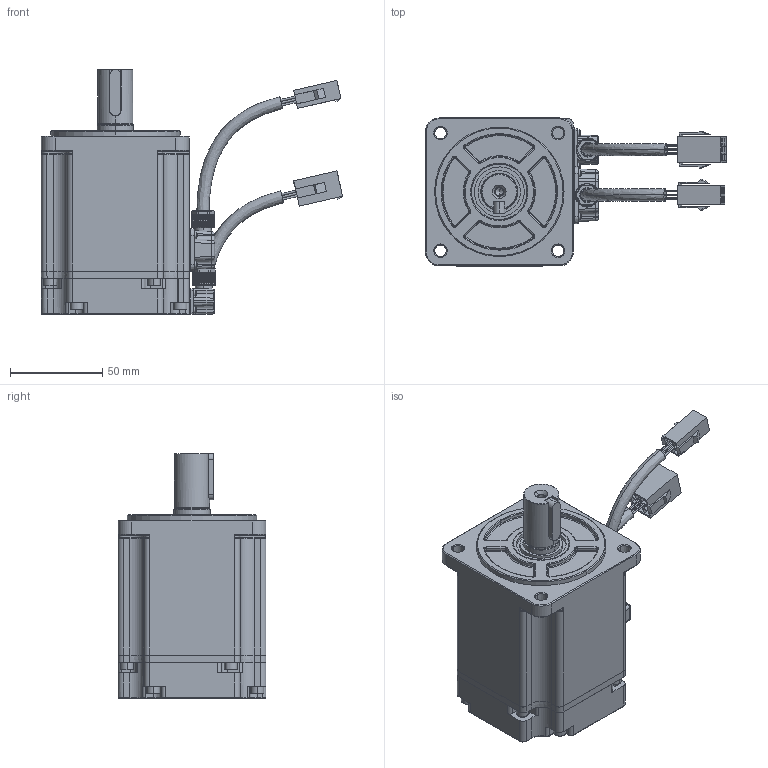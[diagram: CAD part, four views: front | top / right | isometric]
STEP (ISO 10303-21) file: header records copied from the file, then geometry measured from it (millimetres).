
FILE_DESCRIPTION (( 'STEP AP203' ), '1' );
FILE_NAME ('ZE80MA1-0D75DQNM.STEP', '2022-11-11T03:30:07', ( 'User' ), ( 'China' ), 'SwSTEP 2.0', 'SolidWorks 2018', '' );
FILE_SCHEMA (( 'CONFIG_CONTROL_DESIGN' ));
Length unit declared in the file: millimetre
Products named in the file (17): 陓瘍盄 (2); 晤鎢ん1.stp; 80陔綴裔; 晤鎢ん2.stp; GB／T276-94深沟球轴承6004-2RZ; 80儂褲党蜊(1); ZE80MA1-0D75DQNM; GB╱T 818-2000[十字槽盘头螺钉M2×6]_M2×6; Z80A-01-01(80粣)_750W; GB╱T 70.1-2008[内六角圆柱头螺钉M4×25]_M4×25; GB／T276-94深沟球轴承6201-2RZ; 塑壳接插座-4芯(母头线束端); 嘎殤蚐猾30-20-4; 塑壳接插座-9芯(母头线束端); 80Aす瑩(6-6-25); 萇埭盄; 80呿蹋裔.stp
Assembly tree (30 placements, depth 2):
  ZE80MA1-0D75DQNM
    Z80A-01-01(80粣)_750W
    GB／T276-94深沟球轴承6201-2RZ
    嘎殤蚐猾30-20-4
    80Aす瑩(6-6-25)
    80呿蹋裔.stp
    晤鎢ん1.stp
    晤鎢ん2.stp
    80儂褲党蜊(1)
    GB╱T 818-2000[十字槽盘头螺钉M2×6]_M2×6  x8
    GB╱T 70.1-2008[内六角圆柱头螺钉M4×25]_M4×25  x8
    塑壳接插座-4芯(母头线束端)
    塑壳接插座-9芯(母头线束端)
    萇埭盄
    陓瘍盄 (2)
    80陔綴裔
    GB／T276-94深沟球轴承6004-2RZ
Bounding box: 162.97 x 80 x 132.5 mm (x, y, z)
Volume: 230424.4 mm3; surface area: 146482.3 mm2
Topology: 30 solids, 35 shells, 3661 faces, 9463 edges, 5810 vertices
Faces by surface type: plane 1268, cylinder 907, bspline 564, cone 433, torus 307, sphere 182
Entity records: 120626 total; most frequent: CARTESIAN_POINT 46851, ORIENTED_EDGE 15950, DIRECTION 13703, EDGE_CURVE 7975, AXIS2_PLACEMENT_3D 5255, VERTEX_POINT 5026, EDGE_LOOP 3355, LINE 3193
